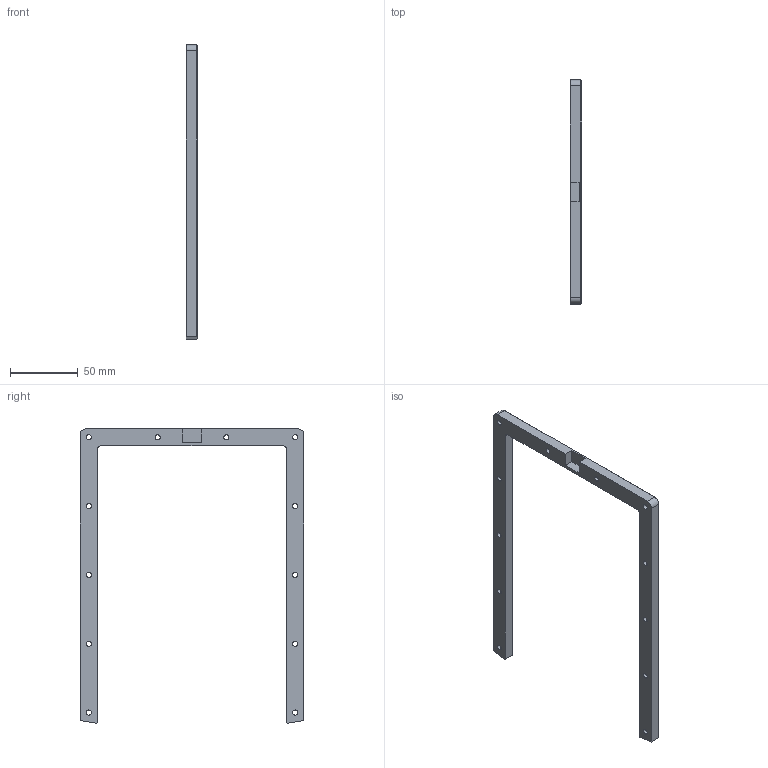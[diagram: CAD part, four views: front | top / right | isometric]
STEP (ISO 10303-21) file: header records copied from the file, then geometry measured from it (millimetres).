
FILE_DESCRIPTION (( 'STEP AP214' ), '1' );
FILE_NAME ('Antenna Frame Right.STEP', '2021-06-11T04:49:54', ( '' ), ( '' ), 'SwSTEP 2.0', 'SolidWorks 2016', '' );
FILE_SCHEMA (( 'AUTOMOTIVE_DESIGN' ));
Length unit declared in the file: inch
Products named in the file (1): Antenna Frame Right
Bounding box: 8.38 x 165.1 x 217.43 mm (x, y, z)
Volume: 57914.8 mm3; surface area: 24706.7 mm2
Topology: 1 solids, 1 shells, 82 faces, 200 edges, 120 vertices
Faces by surface type: cone 28, cylinder 28, plane 26
Entity records: 2476 total; most frequent: DIRECTION 450, CARTESIAN_POINT 403, ORIENTED_EDGE 400, EDGE_CURVE 200, AXIS2_PLACEMENT_3D 167, VERTEX_POINT 120, LINE 116, VECTOR 116
